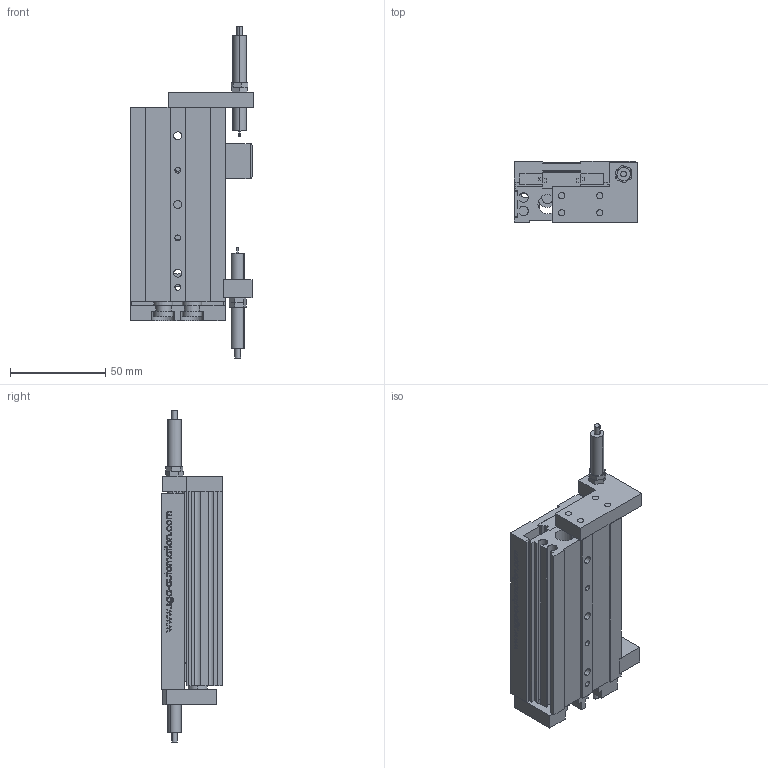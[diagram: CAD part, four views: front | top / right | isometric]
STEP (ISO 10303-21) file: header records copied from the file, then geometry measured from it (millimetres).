
FILE_DESCRIPTION (( 'STEP AP203' ), '1' );
FILE_NAME ('GDX 12-50.STEP', '2013-02-25T09:00:10', ( 'Conseil Régional Haute-Normandie' ), ( 'Conseil Régional Haute-Normandie' ), 'SwSTEP 2.0', 'SolidWorks 2010', '' );
FILE_SCHEMA (( 'CONFIG_CONTROL_DESIGN' ));
Length unit declared in the file: millimetre
Products named in the file (14): GDX12-10 Pièce3_Default; GDX12-50 Pièce7_Default; GDX12-10 pièce 1; GDX25-10 Pièce13_Default; GDX25-10 Pièce12_Default; GDX 12-50; GDX12-50 Pièce6_Default; GDX25-50 Pièce9_Default; GDX25-50 Pièce8_Default; GDX12-10 Pièce 2; GDX12-10 Pièce 4; GDX 12-10 Pièce5_Default; GDX25-10 Pièce14_Default; GDX12-50 Pièce11_Default
Assembly tree (27 placements, depth 2):
  GDX 12-50
    GDX12-50 Pièce6_Default
    GDX12-10 Pièce 4
    GDX25-50 Pièce8_Default  x2
    GDX25-50 Pièce9_Default
    GDX 12-10 Pièce5_Default  x2
    GDX25-10 Pièce13_Default  x8
    GDX25-10 Pièce12_Default  x4
    GDX12-10 pièce 1
    GDX12-50 Pièce11_Default  x2
    GDX12-50 Pièce7_Default
    GDX12-10 Pièce 2
    GDX25-10 Pièce14_Default  x2
    GDX12-10 Pièce3_Default
Bounding box: 65 x 32 x 174.27 mm (x, y, z)
Volume: 151547.1 mm3; surface area: 74448.5 mm2
Topology: 27 solids, 27 shells, 748 faces, 1910 edges, 1250 vertices
Faces by surface type: plane 389, cylinder 198, bspline 133, cone 24, torus 4
Entity records: 31510 total; most frequent: CARTESIAN_POINT 14690, ORIENTED_EDGE 3268, DIRECTION 2686, EDGE_CURVE 1634, VERTEX_POINT 1082, VECTOR 1070, LINE 1070, AXIS2_PLACEMENT_3D 808
